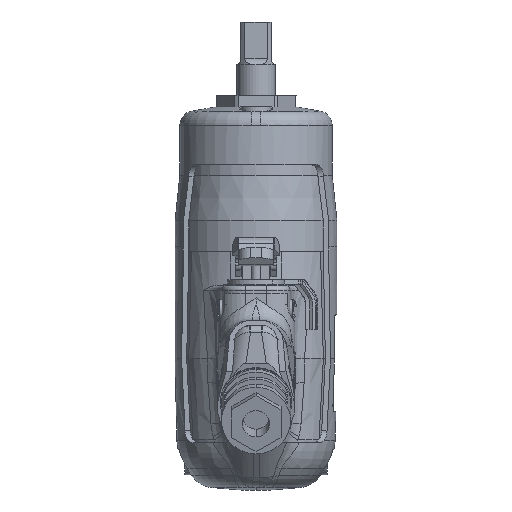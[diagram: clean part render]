
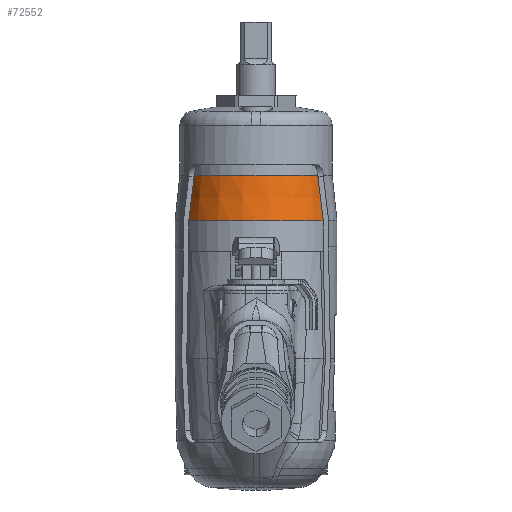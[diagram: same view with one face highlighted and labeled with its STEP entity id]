
A CAD part, front view. The second image highlights one B-rep face of the part: STEP entity #72552.
In plain terms, the highlighted conical face has half-angle 6 degrees and reference radius 32 mm.
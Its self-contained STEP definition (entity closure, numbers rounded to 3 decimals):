
#30554 = DIRECTION ( 'NONE',  ( -0.105, 0., -0.995 ) ) ;
#30555 = VECTOR ( 'NONE', #30554, 1000. ) ;
#30556 = CARTESIAN_POINT ( 'NONE',  ( -32., 0., -52.8 ) ) ;
#30557 = LINE ( 'NONE', #30556, #30555 ) ;
#30558 = CARTESIAN_POINT ( 'NONE',  ( -32., 0., -52.8 ) ) ;
#30564 = CARTESIAN_POINT ( 'NONE',  ( 32., 0., -52.8 ) ) ;
#30565 = DIRECTION ( 'NONE',  ( 0.105, 0., -0.995 ) ) ;
#30566 = VECTOR ( 'NONE', #30565, 1000. ) ;
#30567 = CARTESIAN_POINT ( 'NONE',  ( 32., 0., -52.8 ) ) ;
#30568 = LINE ( 'NONE', #30567, #30566 ) ;
#30589 = CARTESIAN_POINT ( 'NONE',  ( -30., 0., -33.771 ) ) ;
#30590 = CARTESIAN_POINT ( 'NONE',  ( 30., 0., -33.771 ) ) ;
#30869 = CONICAL_SURFACE ( 'NONE', #30871, 32., 0.105 ) ;
#30870 = CIRCLE ( 'NONE', #30930, 30. ) ;
#30871 = AXIS2_PLACEMENT_3D ( 'NONE', #30933, #30932, #30931 ) ;
#30872 = FACE_OUTER_BOUND ( 'NONE', #72553, .T. ) ;
#30873 = DIRECTION ( 'NONE',  ( 1., 0., 0. ) ) ;
#30874 = DIRECTION ( 'NONE',  ( 0., 0., 1. ) ) ;
#30875 = CARTESIAN_POINT ( 'NONE',  ( 0., 0., -52.8 ) ) ;
#30876 = AXIS2_PLACEMENT_3D ( 'NONE', #30875, #30874, #30873 ) ;
#30882 = CIRCLE ( 'NONE', #30876, 32. ) ;
#30927 = DIRECTION ( 'NONE',  ( 1., 0., 0. ) ) ;
#30928 = DIRECTION ( 'NONE',  ( 0., 0., 1. ) ) ;
#30929 = CARTESIAN_POINT ( 'NONE',  ( 0., 0., -33.771 ) ) ;
#30930 = AXIS2_PLACEMENT_3D ( 'NONE', #30929, #30928, #30927 ) ;
#30931 = DIRECTION ( 'NONE',  ( -1., 0., 0. ) ) ;
#30932 = DIRECTION ( 'NONE',  ( 0., 0., -1. ) ) ;
#30933 = CARTESIAN_POINT ( 'NONE',  ( 0., 0., -52.8 ) ) ;
#72403 = EDGE_CURVE ( 'NONE', #72421, #72404, #30568, .T. ) ;
#72404 = VERTEX_POINT ( 'NONE', #30564 ) ;
#72407 = VERTEX_POINT ( 'NONE', #30558 ) ;
#72409 = EDGE_CURVE ( 'NONE', #72422, #72407, #30557, .T. ) ;
#72421 = VERTEX_POINT ( 'NONE', #30590 ) ;
#72422 = VERTEX_POINT ( 'NONE', #30589 ) ;
#72551 = EDGE_CURVE ( 'NONE', #72407, #72404, #30882, .T. ) ;
#72552 = ADVANCED_FACE ( 'NONE', ( #30872 ), #30869, .T. ) ;
#72553 = EDGE_LOOP ( 'NONE', ( #72554, #72555, #72557, #72558 ) ) ;
#72554 = ORIENTED_EDGE ( 'NONE', *, *, #72403, .F. ) ;
#72555 = ORIENTED_EDGE ( 'NONE', *, *, #72556, .F. ) ;
#72556 = EDGE_CURVE ( 'NONE', #72422, #72421, #30870, .T. ) ;
#72557 = ORIENTED_EDGE ( 'NONE', *, *, #72409, .T. ) ;
#72558 = ORIENTED_EDGE ( 'NONE', *, *, #72551, .T. ) ;
